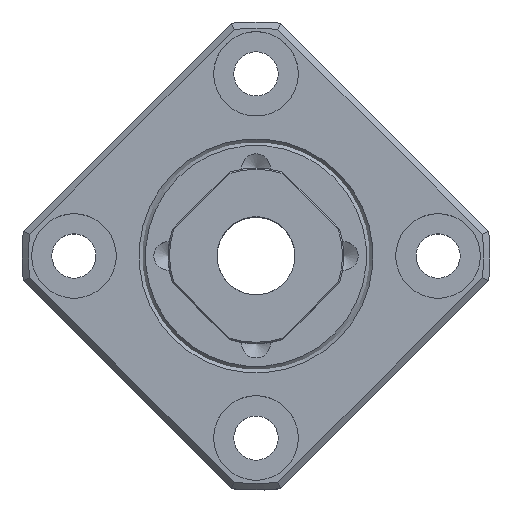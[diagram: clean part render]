
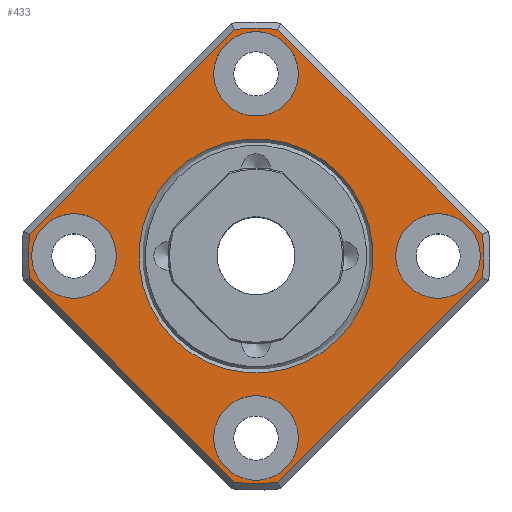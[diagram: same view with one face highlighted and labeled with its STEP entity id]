
A CAD part, top view. The second image highlights one B-rep face of the part: STEP entity #433.
In plain terms, the highlighted planar face has unit normal (0, 0, 1).
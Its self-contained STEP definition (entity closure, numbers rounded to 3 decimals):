
#324=LINE('',#2304,#378);
#325=LINE('',#2308,#379);
#326=LINE('',#2312,#380);
#327=LINE('',#2316,#381);
#378=VECTOR('',#1859,1.);
#379=VECTOR('',#1862,1.);
#380=VECTOR('',#1865,1.);
#381=VECTOR('',#1868,1.);
#433=ADVANCED_FACE('',(#582,#583,#584,#585,#586,#587),#538,.F.);
#538=PLANE('',#1656);
#582=FACE_BOUND('',#700,.T.);
#583=FACE_BOUND('',#701,.T.);
#584=FACE_BOUND('',#702,.T.);
#585=FACE_BOUND('',#703,.T.);
#586=FACE_BOUND('',#704,.T.);
#587=FACE_BOUND('',#705,.T.);
#700=EDGE_LOOP('',(#867));
#701=EDGE_LOOP('',(#868));
#702=EDGE_LOOP('',(#869));
#703=EDGE_LOOP('',(#870));
#704=EDGE_LOOP('',(#871));
#705=EDGE_LOOP('',(#872,#873,#874,#875,#876,#877,#878,#879));
#867=ORIENTED_EDGE('',*,*,#1374,.T.);
#868=ORIENTED_EDGE('',*,*,#1375,.T.);
#869=ORIENTED_EDGE('',*,*,#1376,.T.);
#870=ORIENTED_EDGE('',*,*,#1377,.T.);
#871=ORIENTED_EDGE('',*,*,#1378,.T.);
#872=ORIENTED_EDGE('',*,*,#1379,.T.);
#873=ORIENTED_EDGE('',*,*,#1380,.T.);
#874=ORIENTED_EDGE('',*,*,#1381,.T.);
#875=ORIENTED_EDGE('',*,*,#1382,.T.);
#876=ORIENTED_EDGE('',*,*,#1383,.T.);
#877=ORIENTED_EDGE('',*,*,#1384,.T.);
#878=ORIENTED_EDGE('',*,*,#1385,.T.);
#879=ORIENTED_EDGE('',*,*,#1386,.T.);
#1239=VERTEX_POINT('',#2292);
#1240=VERTEX_POINT('',#2294);
#1241=VERTEX_POINT('',#2296);
#1242=VERTEX_POINT('',#2298);
#1243=VERTEX_POINT('',#2300);
#1244=VERTEX_POINT('',#2302);
#1245=VERTEX_POINT('',#2303);
#1246=VERTEX_POINT('',#2305);
#1247=VERTEX_POINT('',#2307);
#1248=VERTEX_POINT('',#2309);
#1249=VERTEX_POINT('',#2311);
#1250=VERTEX_POINT('',#2313);
#1251=VERTEX_POINT('',#2315);
#1374=EDGE_CURVE('',#1239,#1239,#1560,.T.);
#1375=EDGE_CURVE('',#1240,#1240,#1561,.T.);
#1376=EDGE_CURVE('',#1241,#1241,#1562,.T.);
#1377=EDGE_CURVE('',#1242,#1242,#1563,.T.);
#1378=EDGE_CURVE('',#1243,#1243,#1564,.T.);
#1379=EDGE_CURVE('',#1244,#1245,#1565,.T.);
#1380=EDGE_CURVE('',#1245,#1246,#324,.T.);
#1381=EDGE_CURVE('',#1246,#1247,#1566,.T.);
#1382=EDGE_CURVE('',#1247,#1248,#325,.T.);
#1383=EDGE_CURVE('',#1248,#1249,#1567,.T.);
#1384=EDGE_CURVE('',#1249,#1250,#326,.T.);
#1385=EDGE_CURVE('',#1250,#1251,#1568,.T.);
#1386=EDGE_CURVE('',#1251,#1244,#327,.T.);
#1560=CIRCLE('',#1647,3.25);
#1561=CIRCLE('',#1648,3.25);
#1562=CIRCLE('',#1649,3.25);
#1563=CIRCLE('',#1650,3.25);
#1564=CIRCLE('',#1651,9.);
#1565=CIRCLE('',#1652,17.5);
#1566=CIRCLE('',#1653,17.5);
#1567=CIRCLE('',#1654,17.5);
#1568=CIRCLE('',#1655,17.5);
#1647=AXIS2_PLACEMENT_3D('',#2291,#1847,#1848);
#1648=AXIS2_PLACEMENT_3D('',#2293,#1849,#1850);
#1649=AXIS2_PLACEMENT_3D('',#2295,#1851,#1852);
#1650=AXIS2_PLACEMENT_3D('',#2297,#1853,#1854);
#1651=AXIS2_PLACEMENT_3D('',#2299,#1855,#1856);
#1652=AXIS2_PLACEMENT_3D('',#2301,#1857,#1858);
#1653=AXIS2_PLACEMENT_3D('',#2306,#1860,#1861);
#1654=AXIS2_PLACEMENT_3D('',#2310,#1863,#1864);
#1655=AXIS2_PLACEMENT_3D('',#2314,#1866,#1867);
#1656=AXIS2_PLACEMENT_3D('',#2317,#1869,#1870);
#1847=DIRECTION('',(0.,0.,-1.));
#1848=DIRECTION('',(-1.,0.,0.));
#1849=DIRECTION('',(0.,0.,-1.));
#1850=DIRECTION('',(-1.,0.,0.));
#1851=DIRECTION('',(0.,0.,-1.));
#1852=DIRECTION('',(-1.,0.,0.));
#1853=DIRECTION('',(0.,0.,-1.));
#1854=DIRECTION('',(-1.,0.,0.));
#1855=DIRECTION('',(0.,0.,-1.));
#1856=DIRECTION('',(-1.,0.,0.));
#1857=DIRECTION('',(0.,0.,1.));
#1858=DIRECTION('',(-1.,0.,0.));
#1859=DIRECTION('',(1.,0.,0.));
#1860=DIRECTION('',(0.,0.,1.));
#1861=DIRECTION('',(-1.,0.,0.));
#1862=DIRECTION('',(0.,1.,0.));
#1863=DIRECTION('',(0.,0.,1.));
#1864=DIRECTION('',(-1.,0.,0.));
#1865=DIRECTION('',(-1.,0.,0.));
#1866=DIRECTION('',(0.,0.,1.));
#1867=DIRECTION('',(-1.,0.,0.));
#1868=DIRECTION('',(0.,-1.,0.));
#1869=DIRECTION('',(0.,0.,-1.));
#1870=DIRECTION('',(-1.,0.,0.));
#2291=CARTESIAN_POINT('',(23.899,23.899,7.));
#2292=CARTESIAN_POINT('',(20.649,23.899,7.));
#2293=CARTESIAN_POINT('',(23.899,4.101,7.));
#2294=CARTESIAN_POINT('',(20.649,4.101,7.));
#2295=CARTESIAN_POINT('',(4.101,4.101,7.));
#2296=CARTESIAN_POINT('',(0.851,4.101,7.));
#2297=CARTESIAN_POINT('',(4.101,23.899,7.));
#2298=CARTESIAN_POINT('',(0.851,23.899,7.));
#2299=CARTESIAN_POINT('',(14.,14.,7.));
#2300=CARTESIAN_POINT('',(5.,14.,7.));
#2301=CARTESIAN_POINT('',(14.,14.,7.));
#2302=CARTESIAN_POINT('',(0.5,2.864,7.));
#2303=CARTESIAN_POINT('',(2.864,0.5,7.));
#2304=CARTESIAN_POINT('',(25.314,0.5,7.));
#2305=CARTESIAN_POINT('',(25.136,0.5,7.));
#2306=CARTESIAN_POINT('',(14.,14.,7.));
#2307=CARTESIAN_POINT('',(27.5,2.864,7.));
#2308=CARTESIAN_POINT('',(27.5,25.314,7.));
#2309=CARTESIAN_POINT('',(27.5,25.136,7.));
#2310=CARTESIAN_POINT('',(14.,14.,7.));
#2311=CARTESIAN_POINT('',(25.136,27.5,7.));
#2312=CARTESIAN_POINT('',(2.686,27.5,7.));
#2313=CARTESIAN_POINT('',(2.864,27.5,7.));
#2314=CARTESIAN_POINT('',(14.,14.,7.));
#2315=CARTESIAN_POINT('',(0.5,25.136,7.));
#2316=CARTESIAN_POINT('',(0.5,2.686,7.));
#2317=CARTESIAN_POINT('',(14.,14.,7.));
